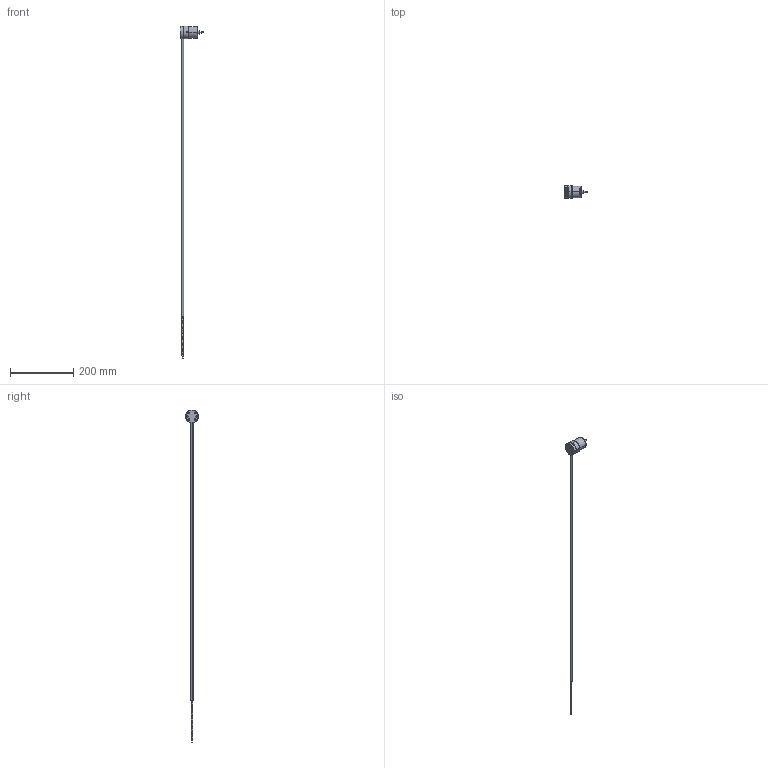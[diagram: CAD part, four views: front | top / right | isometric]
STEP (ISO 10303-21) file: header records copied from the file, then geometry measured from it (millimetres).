
FILE_DESCRIPTION (( 'STEP AP214' ), '1' );
FILE_NAME ('PUB-BR-101376.STEP', '2023-03-23T23:48:00', ( '' ), ( '' ), 'SwSTEP 2.0', 'SolidWorks 2022', '' );
FILE_SCHEMA (( 'AUTOMOTIVE_DESIGN' ));
Length unit declared in the file: millimetre
Products named in the file (15): CAB-PUR-3-16AWG-R2-PROCESSED_T200 As-Installed; M4X0.7-4-SS316-CUP-POINT-SET-SCREW_92029A140; M200-BASE-PLATE-R1; T200-ASM-STATOR-POTTED-R1B_PUBLIC; M200-ASM-BASE-PLATE-R1_No Undercuts; M3X0.5-8-SS316-SOCKET-HEAD-CAP-SCREW; M200-STATOR-BASE-R1_PUBLIC; PUB-BR-101376; T200-P-BEARING-R1_PUBLIC; M200-STATOR-STEM-R2_PUBLIC; T200-M-SHAFT-COLLAR-R3_57485K21; THREADED-INSERT-M3X0.5-6-R1; PUB_T200-ASM-ROTOR-R3; M200-ASM-STATOR-BASE-R2_PUBLIC; T200 Overmold R1B_PUBLIC
Assembly tree (21 placements, depth 3):
  PUB-BR-101376
    M200-ASM-STATOR-BASE-R2_PUBLIC
      M200-STATOR-BASE-R1_PUBLIC
      M200-STATOR-STEM-R2_PUBLIC
      THREADED-INSERT-M3X0.5-6-R1  x2
    M200-ASM-BASE-PLATE-R1_No Undercuts
      M200-BASE-PLATE-R1
      THREADED-INSERT-M3X0.5-6-R1  x4
    T200-ASM-STATOR-POTTED-R1B_PUBLIC
      T200 Overmold R1B_PUBLIC
    T200-P-BEARING-R1_PUBLIC  x2
    M3X0.5-8-SS316-SOCKET-HEAD-CAP-SCREW  x2
    T200-M-SHAFT-COLLAR-R3_57485K21
    CAB-PUR-3-16AWG-R2-PROCESSED_T200 As-Installed
    M4X0.7-4-SS316-CUP-POINT-SET-SCREW_92029A140
    PUB_T200-ASM-ROTOR-R3
Bounding box: 73.6 x 40 x 1050 mm (x, y, z)
Volume: 78356.3 mm3; surface area: 49393.9 mm2
Topology: 18 solids, 18 shells, 2084 faces, 5172 edges, 3150 vertices
Faces by surface type: cylinder 663, plane 632, cone 412, torus 190, bspline 169, sphere 18
Entity records: 52859 total; most frequent: CARTESIAN_POINT 29403, ORIENTED_EDGE 4826, DIRECTION 4380, EDGE_CURVE 2413, AXIS2_PLACEMENT_3D 1882, VERTEX_POINT 1468, EDGE_LOOP 1067, CIRCLE 1005
